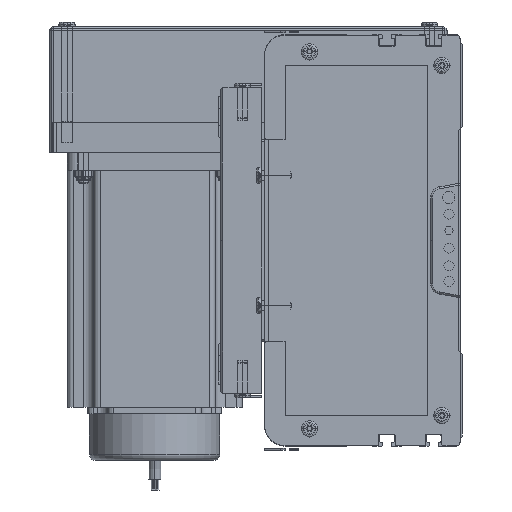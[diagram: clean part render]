
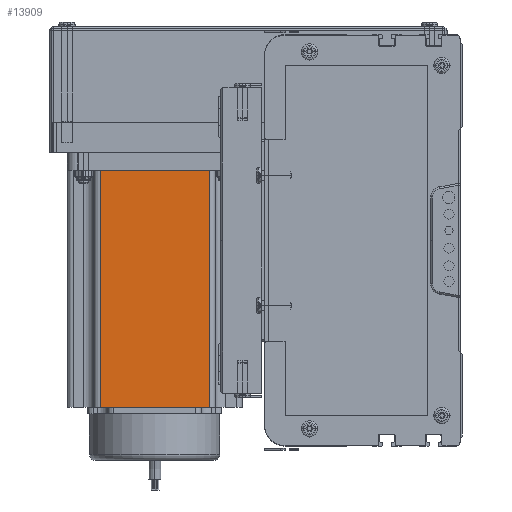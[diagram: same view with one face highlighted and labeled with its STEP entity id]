
A CAD part, left-side view. The second image highlights one B-rep face of the part: STEP entity #13909.
In plain terms, the highlighted planar face has unit normal (-1, 0, 0) as drawn and (0, -1, 0) by its records, which use the part's own axes.
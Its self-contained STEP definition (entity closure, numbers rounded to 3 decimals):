
#5162 = VERTEX_POINT ( 'NONE', #110841 ) ;
#13130 = EDGE_CURVE ( 'NONE', #5162, #13380, #105203, .T. ) ;
#13144 = VERTEX_POINT ( 'NONE', #105185 ) ;
#13150 = EDGE_LOOP ( 'NONE', ( #13890, #13160, #13437, #13355 ) ) ;
#13160 = ORIENTED_EDGE ( 'NONE', *, *, #13325, .T. ) ;
#13275 = EDGE_CURVE ( 'NONE', #5162, #13144, #106241, .T. ) ;
#13325 = EDGE_CURVE ( 'NONE', #13442, #13380, #106286, .T. ) ;
#13355 = ORIENTED_EDGE ( 'NONE', *, *, #13275, .T. ) ;
#13380 = VERTEX_POINT ( 'NONE', #106500 ) ;
#13430 = EDGE_CURVE ( 'NONE', #13144, #13442, #107079, .T. ) ;
#13437 = ORIENTED_EDGE ( 'NONE', *, *, #13130, .F. ) ;
#13442 = VERTEX_POINT ( 'NONE', #106882 ) ;
#13890 = ORIENTED_EDGE ( 'NONE', *, *, #13430, .T. ) ;
#13909 = ADVANCED_FACE ( 'NONE', ( #107024 ), #106948, .F. ) ;
#105180 = DIRECTION ( 'NONE',  ( 1., 0., 0. ) ) ;
#105182 = VECTOR ( 'NONE', #105180, 1000. ) ;
#105185 = CARTESIAN_POINT ( 'NONE',  ( 16.16, 0., 0. ) ) ;
#105203 = LINE ( 'NONE', #105356, #105182 ) ;
#105356 = CARTESIAN_POINT ( 'NONE',  ( 0., 0., 116.5 ) ) ;
#106085 = DIRECTION ( 'NONE',  ( 0., 0., -1. ) ) ;
#106087 = VECTOR ( 'NONE', #106085, 1000. ) ;
#106088 = CARTESIAN_POINT ( 'NONE',  ( 16.16, 0., 116.5 ) ) ;
#106241 = LINE ( 'NONE', #106088, #106087 ) ;
#106286 = LINE ( 'NONE', #106509, #106674 ) ;
#106500 = CARTESIAN_POINT ( 'NONE',  ( 69.74, 0., 116.5 ) ) ;
#106509 = CARTESIAN_POINT ( 'NONE',  ( 69.74, 0., 116.5 ) ) ;
#106672 = DIRECTION ( 'NONE',  ( 0., 0., 1. ) ) ;
#106674 = VECTOR ( 'NONE', #106672, 1000. ) ;
#106860 = CARTESIAN_POINT ( 'NONE',  ( 0., 0., 116.5 ) ) ;
#106882 = CARTESIAN_POINT ( 'NONE',  ( 69.74, 0., 0. ) ) ;
#106930 = DIRECTION ( 'NONE',  ( 1., 0., 0. ) ) ;
#106943 = AXIS2_PLACEMENT_3D ( 'NONE', #106860, #106990, #107329 ) ;
#106948 = PLANE ( 'NONE',  #106943 ) ;
#106954 = CARTESIAN_POINT ( 'NONE',  ( 0., 0., 0. ) ) ;
#106990 = DIRECTION ( 'NONE',  ( 0., 1., 0. ) ) ;
#107024 = FACE_OUTER_BOUND ( 'NONE', #13150, .T. ) ;
#107033 = VECTOR ( 'NONE', #106930, 1000. ) ;
#107079 = LINE ( 'NONE', #106954, #107033 ) ;
#107329 = DIRECTION ( 'NONE',  ( 0., 0., 1. ) ) ;
#110841 = CARTESIAN_POINT ( 'NONE',  ( 16.16, 0., 116.5 ) ) ;
